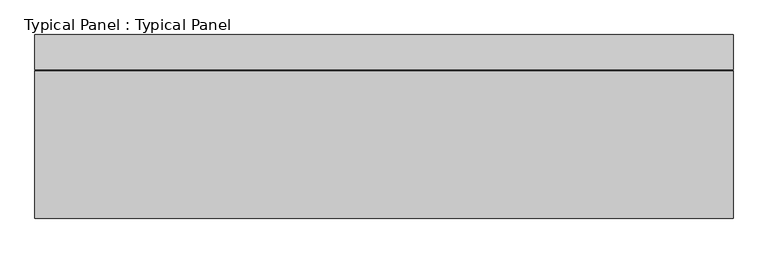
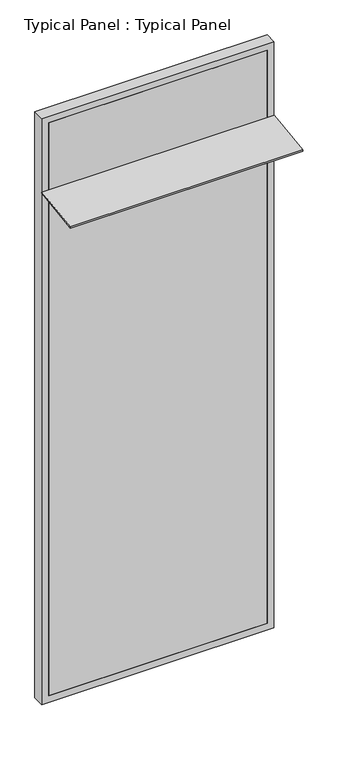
"""IFC4 building model written with IfcOpenShell, lengths in millimetres: plate geometry, Typical Panel : Typical Panel."""

from ifc_helpers import new_model, si_unit, frame, origin, place, context, project, spatial, polyline, outline, extrude, source, transform, mapped, element, save


def typical_panel_typical_panel_64653f65(model_context):
    return source(origin(), model_context, "Body", "SweptSolid", [
        extrude(outline(polyline([(0.0, -320.0), (0.0, 0.0), (1500.0, 0.0), (1500.0, -320.0), (0.0, -320.0)])), frame((750.0, -320.494051, 3445.561927), z_axis=(0.0, -0.1391731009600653, 0.9902680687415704), x_axis=(-1.0, 0.0, 0.0)), (0.0, 0.0, 1.0), 10.0),
        extrude(outline(polyline([(0.0, -750.0), (0.0, 750.0), (4000.0, 750.0), (4000.0, -750.0), (0.0, -750.0)]), holes=[polyline([(45.0, 705.0), (45.0, -705.0), (3955.0, -705.0), (3955.0, 705.0), (45.0, 705.0)])]), frame((0.0, -1.5797986, 0.0), z_axis=(0.0, 1.0, 0.0), x_axis=(0.0, 0.0, 1.0)), (0.0, 0.0, 1.0), 75.0),
        extrude(outline(polyline([(705.0, -1.5797986), (-705.0, -1.5797986), (-705.0, 13.4202014), (705.0, 13.4202014), (705.0, -1.5797986)])), frame((0.0, 0.0, 45.0), z_axis=(0.0, 0.0, 1.0), x_axis=(1.0, 0.0, 0.0)), (0.0, 0.0, 1.0), 3910.0),
    ])


if __name__ == "__main__":
    model = new_model("IFC4")
    model_context = context("Model", 3, world=origin())
    ifc_project = project(units=[si_unit("LENGTHUNIT", "METRE", prefix="MILLI")], contexts=[model_context])
    site = spatial("IfcSite", under=ifc_project)
    building = spatial("IfcBuilding", under=site)
    placement = place(None, origin())
    typical_panel_typical_panel_shape = typical_panel_typical_panel_64653f65(model_context)
    element("IfcPlate", 1, ObjectType="Typical Panel : Typical Panel", at=placement, inside=building, context=model_context, shape_type="MappedRepresentation", body=[
        mapped(typical_panel_typical_panel_shape, transform((0.0, 0.0, 0.0), x_axis=(1.0, 0.0, 0.0), y_axis=(0.0, 1.0, 0.0), z_axis=(0.0, 0.0, 1.0))),
    ])
    save(model, "model.ifc")
